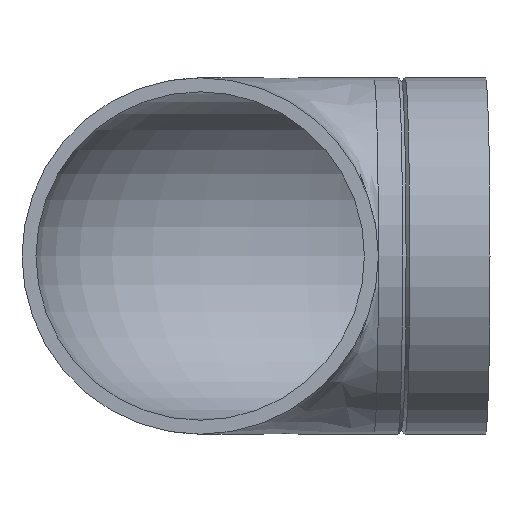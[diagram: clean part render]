
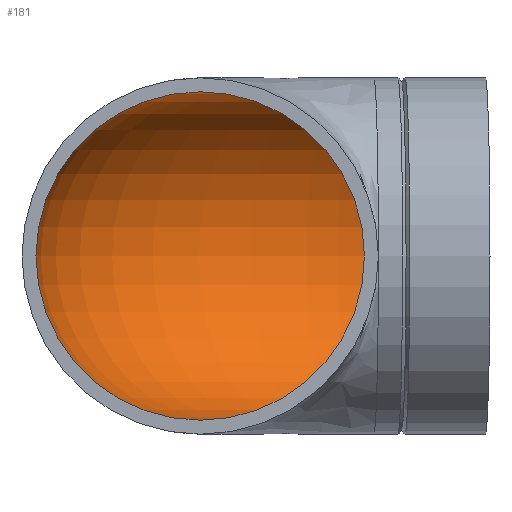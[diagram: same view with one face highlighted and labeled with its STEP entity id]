
A CAD part, front view. The second image highlights one B-rep face of the part: STEP entity #181.
In plain terms, the highlighted toroidal (fillet/blend) face has major radius 62.5 mm and minor radius 57.6 mm.
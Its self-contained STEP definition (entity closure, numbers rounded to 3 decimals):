
#14=TOROIDAL_SURFACE($,#213,62.5,57.6);
#35=FACE_BOUND($,#78,.T.);
#54=FACE_OUTER_BOUND($,#77,.T.);
#77=EDGE_LOOP($,(#154));
#78=EDGE_LOOP($,(#155));
#97=CIRCLE($,#208,57.6);
#100=CIRCLE($,#214,57.6);
#113=VERTEX_POINT($,#354);
#115=VERTEX_POINT($,#362);
#128=EDGE_CURVE($,#113,#113,#97,.T.);
#131=EDGE_CURVE($,#115,#115,#100,.T.);
#154=ORIENTED_EDGE($,*,*,#131,.T.);
#155=ORIENTED_EDGE($,*,*,#128,.F.);
#181=ADVANCED_FACE($,(#54,#35),#14,.F.);
#208=AXIS2_PLACEMENT_3D($,#355,#259,#260);
#213=AXIS2_PLACEMENT_3D($,#361,#269,#270);
#214=AXIS2_PLACEMENT_3D($,#363,#271,#272);
#259=DIRECTION('center_axis',(-1.,-0.026,0.));
#260=DIRECTION('ref_axis',(0.026,-1.,0.));
#269=DIRECTION('center_axis',(0.,0.,-1.));
#270=DIRECTION('ref_axis',(-1.,0.,0.));
#271=DIRECTION('center_axis',(0.,-1.,0.));
#272=DIRECTION('ref_axis',(1.,0.,0.));
#354=CARTESIAN_POINT('',(59.356,157.58,0.));
#355=CARTESIAN_POINT('Origin',(60.864,100.,0.));
#361=CARTESIAN_POINT('Origin',(62.5,37.521,0.));
#362=CARTESIAN_POINT('',(-57.6,37.521,0.));
#363=CARTESIAN_POINT('Origin',(0.,37.521,0.));
